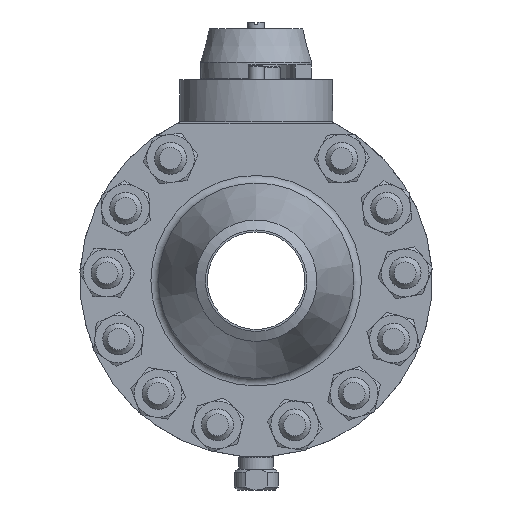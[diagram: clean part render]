
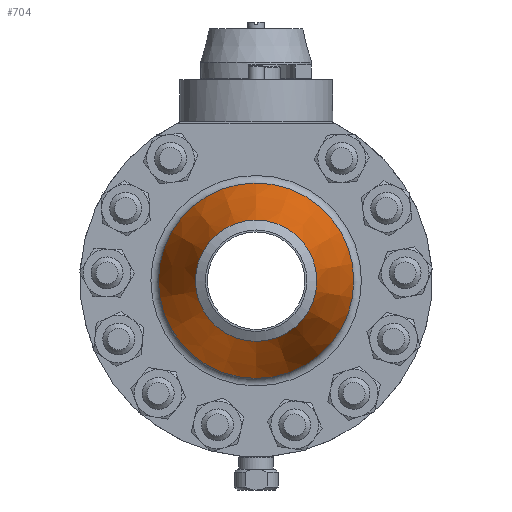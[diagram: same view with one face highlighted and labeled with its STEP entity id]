
A CAD part, left-side view. The second image highlights one B-rep face of the part: STEP entity #704.
In plain terms, the highlighted conical face has half-angle 18.435 degrees and reference radius 39.794 mm.
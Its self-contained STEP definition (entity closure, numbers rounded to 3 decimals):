
#704=ADVANCED_FACE('',(#7089),#7091,.T.);
#7089=FACE_OUTER_BOUND('',#7090,.T.);
#7090=EDGE_LOOP('',(#12391,#12392,#12393,#12394));
#7091=CONICAL_SURFACE('',#7092,39.794,0.322);
#7092=AXIS2_PLACEMENT_3D('',#7093,#7094,#7095);
#7093=CARTESIAN_POINT('',(-88.118,0.,0.));
#7094=DIRECTION('',(1.,0.,0.));
#7095=DIRECTION('',(0.,0.,-1.));
#12391=ORIENTED_EDGE('',*,*,#15741,.F.);
#12392=ORIENTED_EDGE('',*,*,#16052,.T.);
#12393=ORIENTED_EDGE('',*,*,#16053,.T.);
#12394=ORIENTED_EDGE('',*,*,#16052,.F.);
#15741=EDGE_CURVE('',#18790,#18790,#18792,.T.);
#16052=EDGE_CURVE('',#18790,#19287,#19288,.T.);
#16053=EDGE_CURVE('',#19287,#19287,#19289,.T.);
#18790=VERTEX_POINT('',#36679);
#18792=CIRCLE('',#36684,49.088);
#19287=VERTEX_POINT('',#41586);
#19288=LINE('',#41587,#41588);
#19289=CIRCLE('',#41590,30.5);
#36679=CARTESIAN_POINT('',(-60.235,0.,-49.088));
#36684=AXIS2_PLACEMENT_3D('',#36685,#36686,#36687);
#36685=CARTESIAN_POINT('',(-60.235,0.,0.));
#36686=DIRECTION('',(1.,0.,0.));
#36687=DIRECTION('',(0.,0.,-1.));
#41586=CARTESIAN_POINT('',(-116.,0.,-30.5));
#41587=CARTESIAN_POINT('',(-60.235,0.,-49.088));
#41588=VECTOR('',#41589,1.);
#41589=DIRECTION('',(-0.949,0.,0.316));
#41590=AXIS2_PLACEMENT_3D('',#41591,#41592,#41593);
#41591=CARTESIAN_POINT('',(-116.,0.,0.));
#41592=DIRECTION('',(1.,0.,0.));
#41593=DIRECTION('',(0.,0.,-1.));
